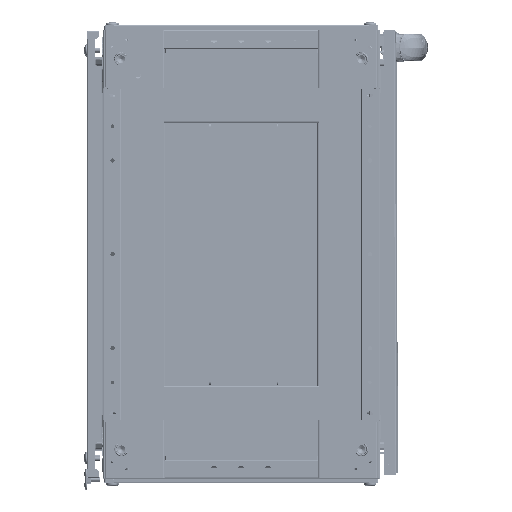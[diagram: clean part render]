
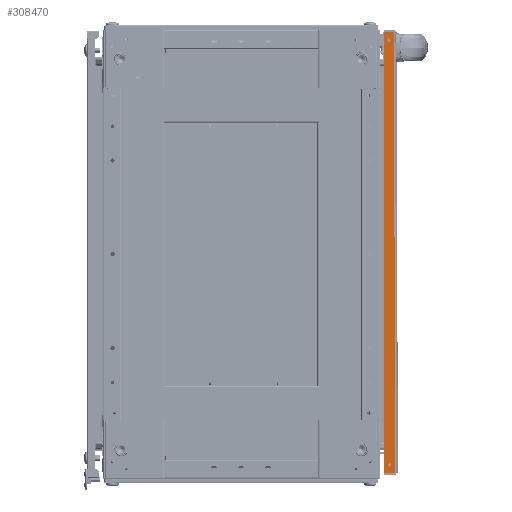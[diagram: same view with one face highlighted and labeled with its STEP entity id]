
A CAD part, front view. The second image highlights one B-rep face of the part: STEP entity #308470.
In plain terms, the highlighted planar face has unit normal (0, -1, 0) as drawn and (-1, 0, 0) by its records, which use the part's own axes.
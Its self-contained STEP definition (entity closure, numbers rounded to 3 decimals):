
#19729 = CARTESIAN_POINT ( 'NONE',  ( -2.01, 16., -588. ) ) ;
#32197 = VERTEX_POINT ( 'NONE', #381423 ) ;
#39171 = VECTOR ( 'NONE', #98978, 1000. ) ;
#59473 = ORIENTED_EDGE ( 'NONE', *, *, #634183, .T. ) ;
#60357 = DIRECTION ( 'NONE',  ( 1., 0., 0. ) ) ;
#62431 = AXIS2_PLACEMENT_3D ( 'NONE', #172246, #595124, #385419 ) ;
#73944 = CARTESIAN_POINT ( 'NONE',  ( -2.01, 9., -574.7 ) ) ;
#83977 = CIRCLE ( 'NONE', #340979, 2.3 ) ;
#97932 = CARTESIAN_POINT ( 'NONE',  ( -2.01, 16., -588. ) ) ;
#98978 = DIRECTION ( 'NONE',  ( 0., 0., -1. ) ) ;
#116337 = EDGE_LOOP ( 'NONE', ( #538235, #59473 ) ) ;
#120625 = CARTESIAN_POINT ( 'NONE',  ( -2.01, 9., -13.3 ) ) ;
#128024 = DIRECTION ( 'NONE',  ( 0., -1., 0. ) ) ;
#140357 = EDGE_CURVE ( 'NONE', #277107, #508940, #151452, .T. ) ;
#151452 = LINE ( 'NONE', #577732, #39171 ) ;
#152426 = EDGE_CURVE ( 'NONE', #448894, #277107, #172172, .T. ) ;
#154976 = CARTESIAN_POINT ( 'NONE',  ( -2.01, 9., -11. ) ) ;
#164576 = DIRECTION ( 'NONE',  ( 0., 0., -1. ) ) ;
#166494 = DIRECTION ( 'NONE',  ( 1., 0., 0. ) ) ;
#168828 = FACE_BOUND ( 'NONE', #116337, .T. ) ;
#172172 = LINE ( 'NONE', #441171, #347362 ) ;
#172246 = CARTESIAN_POINT ( 'NONE',  ( -2.01, 16., -588. ) ) ;
#182365 = DIRECTION ( 'NONE',  ( 0., 0., -1. ) ) ;
#185822 = LINE ( 'NONE', #290707, #323962 ) ;
#191089 = VERTEX_POINT ( 'NONE', #73944 ) ;
#210146 = CARTESIAN_POINT ( 'NONE',  ( -2.01, 9., -577. ) ) ;
#221322 = FACE_BOUND ( 'NONE', #477260, .T. ) ;
#237932 = VERTEX_POINT ( 'NONE', #448007 ) ;
#246127 = EDGE_CURVE ( 'NONE', #237932, #191089, #564350, .T. ) ;
#268009 = DIRECTION ( 'NONE',  ( 0., 0., -1. ) ) ;
#277107 = VERTEX_POINT ( 'NONE', #377399 ) ;
#290026 = ORIENTED_EDGE ( 'NONE', *, *, #321467, .T. ) ;
#290707 = CARTESIAN_POINT ( 'NONE',  ( -2.01, 2.01, -588. ) ) ;
#291004 = EDGE_LOOP ( 'NONE', ( #641681, #517426, #685481, #290026 ) ) ;
#297852 = CIRCLE ( 'NONE', #532306, 2.3 ) ;
#308470 = ADVANCED_FACE ( 'NONE', ( #221322, #168828, #444690 ), #602020, .F. ) ;
#321467 = EDGE_CURVE ( 'NONE', #508940, #443368, #606767, .T. ) ;
#323962 = VECTOR ( 'NONE', #182365, 1000. ) ;
#340979 = AXIS2_PLACEMENT_3D ( 'NONE', #690805, #166494, #268009 ) ;
#341706 = CARTESIAN_POINT ( 'NONE',  ( -2.01, 2.01, -588. ) ) ;
#347362 = VECTOR ( 'NONE', #490161, 1000. ) ;
#351950 = EDGE_CURVE ( 'NONE', #448894, #443368, #185822, .T. ) ;
#365775 = CARTESIAN_POINT ( 'NONE',  ( -2.01, 2.01, 0. ) ) ;
#367097 = ORIENTED_EDGE ( 'NONE', *, *, #474426, .T. ) ;
#377399 = CARTESIAN_POINT ( 'NONE',  ( -2.01, 16., 0. ) ) ;
#381423 = CARTESIAN_POINT ( 'NONE',  ( -2.01, 9., -8.7 ) ) ;
#385419 = DIRECTION ( 'NONE',  ( 0., 1., 0. ) ) ;
#402643 = ORIENTED_EDGE ( 'NONE', *, *, #246127, .T. ) ;
#422891 = EDGE_CURVE ( 'NONE', #541967, #32197, #83977, .T. ) ;
#441171 = CARTESIAN_POINT ( 'NONE',  ( -2.01, 16., 0. ) ) ;
#443368 = VERTEX_POINT ( 'NONE', #341706 ) ;
#444690 = FACE_OUTER_BOUND ( 'NONE', #291004, .T. ) ;
#448007 = CARTESIAN_POINT ( 'NONE',  ( -2.01, 9., -579.3 ) ) ;
#448894 = VERTEX_POINT ( 'NONE', #365775 ) ;
#450676 = DIRECTION ( 'NONE',  ( 0., 0., -1. ) ) ;
#474426 = EDGE_CURVE ( 'NONE', #191089, #237932, #297852, .T. ) ;
#477260 = EDGE_LOOP ( 'NONE', ( #402643, #367097 ) ) ;
#489344 = DIRECTION ( 'NONE',  ( 1., 0., 0. ) ) ;
#490161 = DIRECTION ( 'NONE',  ( 0., 1., 0. ) ) ;
#496230 = CARTESIAN_POINT ( 'NONE',  ( -2.01, 9., -577. ) ) ;
#505354 = AXIS2_PLACEMENT_3D ( 'NONE', #154976, #60357, #588149 ) ;
#508940 = VERTEX_POINT ( 'NONE', #97932 ) ;
#517426 = ORIENTED_EDGE ( 'NONE', *, *, #152426, .T. ) ;
#532306 = AXIS2_PLACEMENT_3D ( 'NONE', #496230, #489344, #450676 ) ;
#538235 = ORIENTED_EDGE ( 'NONE', *, *, #422891, .T. ) ;
#538432 = DIRECTION ( 'NONE',  ( 1., 0., 0. ) ) ;
#541967 = VERTEX_POINT ( 'NONE', #120625 ) ;
#561205 = CIRCLE ( 'NONE', #505354, 2.3 ) ;
#564350 = CIRCLE ( 'NONE', #631717, 2.3 ) ;
#577732 = CARTESIAN_POINT ( 'NONE',  ( -2.01, 16., -588. ) ) ;
#588149 = DIRECTION ( 'NONE',  ( 0., 0., -1. ) ) ;
#595124 = DIRECTION ( 'NONE',  ( 1., 0., 0. ) ) ;
#602020 = PLANE ( 'NONE',  #62431 ) ;
#606767 = LINE ( 'NONE', #19729, #677182 ) ;
#631717 = AXIS2_PLACEMENT_3D ( 'NONE', #210146, #538432, #164576 ) ;
#634183 = EDGE_CURVE ( 'NONE', #32197, #541967, #561205, .T. ) ;
#641681 = ORIENTED_EDGE ( 'NONE', *, *, #351950, .F. ) ;
#677182 = VECTOR ( 'NONE', #128024, 1000. ) ;
#685481 = ORIENTED_EDGE ( 'NONE', *, *, #140357, .T. ) ;
#690805 = CARTESIAN_POINT ( 'NONE',  ( -2.01, 9., -11. ) ) ;
